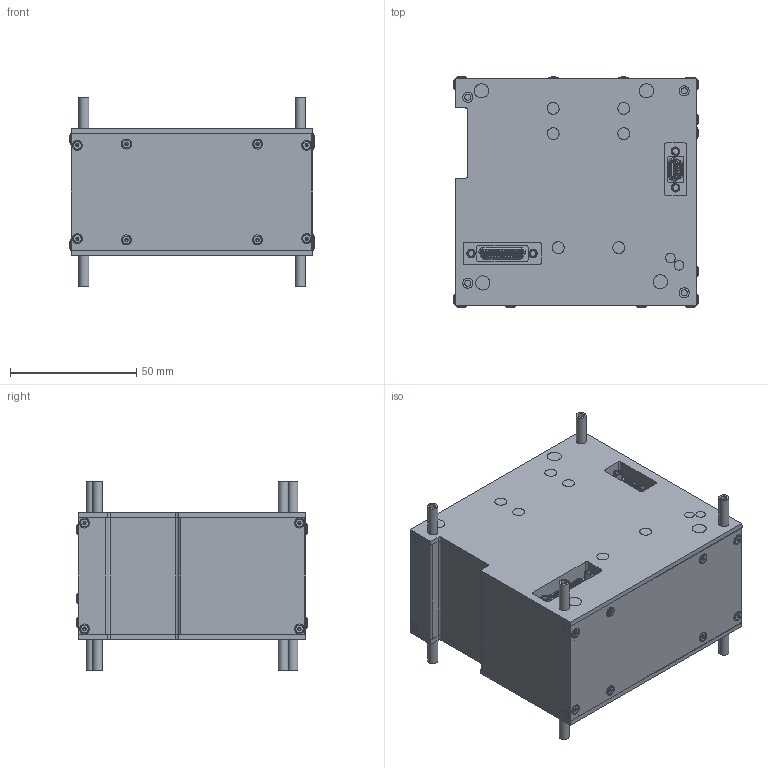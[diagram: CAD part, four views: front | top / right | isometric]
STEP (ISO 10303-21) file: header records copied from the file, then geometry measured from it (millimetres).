
FILE_DESCRIPTION(/* description */ ('Unknown'),/* implementation_level */ '2;1');
FILE_NAME(/* name */ 'ADCSStep',/* time_stamp */ '2018-01-25T21:05:14+01:00',/* author */ ('Unknown'),/* organization */ ('Unknown'),/* preprocessor_version */ 'ST-DEVELOPER v16',/* originating_system */ 'DEX',/* authorisation */ $);
FILE_SCHEMA (('AUTOMOTIVE_DESIGN {1 0 10303 214 3 1 1}'));
Length unit declared in the file: millimetre
Products named in the file (19): LowADCSv9IndentforStepFile; PlateBottomIndent; PlateTopIndent; M25-8; microd25; microd9; PlateBackBigInox; PlateSide2BigInox; PlateSide1BigIndentInox; PlateFrontBigInox; SpacerSide; lowhead8; lowhead; M25-10; M2-8_0; M3-14; M2-5; Lowhead6; lowheadLong
Assembly tree (75 placements, depth 2):
  LowADCSv9IndentforStepFile
    PlateBottomIndent
    PlateTopIndent
    M25-8  x10
    microd25
    microd9
    PlateBackBigInox
    PlateSide2BigInox
    PlateSide1BigIndentInox
    PlateFrontBigInox
    SpacerSide  x4
    lowhead8  x4
    lowhead  x19
    M25-10  x6
    M2-8_0  x8
    M3-14  x8
    M2-5  x2
    Lowhead6  x2
    lowheadLong  x4
Bounding box: 96.89 x 91.17 x 75 mm (x, y, z)
Volume: 52194.2 mm3; surface area: 87937.4 mm2
Topology: 75 solids, 75 shells, 2556 faces, 6389 edges, 4152 vertices
Faces by surface type: cylinder 1230, plane 1043, cone 200, torus 49, sphere 34
Full cylindrical faces by diameter (mm): 0.92 x34, 1.567 x23, 2 x79, 2.134 x4, 2.3 x4, 2.459 x8, 2.5 x30, 2.79 x4, 3 x20, 3.988 x2, 4 x37, 12 x2, 14 x1, 29 x1
Entity records: 45893 total; most frequent: CARTESIAN_POINT 7971, DIRECTION 7648, ORIENTED_EDGE 6668, EDGE_CURVE 3334, AXIS2_PLACEMENT_3D 2842, VERTEX_POINT 2339, FACE_BOUND 2065, EDGE_LOOP 2061
